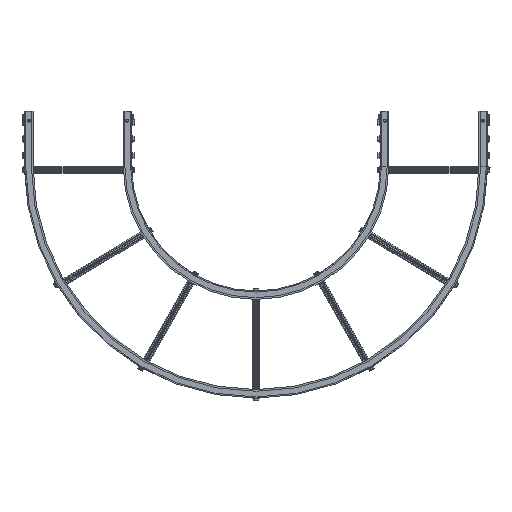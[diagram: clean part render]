
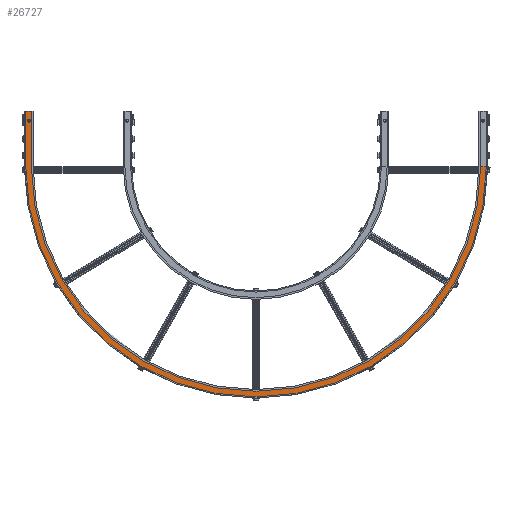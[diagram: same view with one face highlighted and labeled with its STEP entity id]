
A CAD part, front view. The second image highlights one B-rep face of the part: STEP entity #26727.
In plain terms, the highlighted planar face has unit normal (0, -1, 0) as drawn and (0, 1, 0) by its records, which use the part's own axes.
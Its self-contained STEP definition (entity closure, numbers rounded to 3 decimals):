
#40 = CARTESIAN_POINT ( 'NONE',  ( 5., 20., 0. ) ) ;
#231 = DIRECTION ( 'NONE',  ( 0., 0., 1. ) ) ;
#438 = CARTESIAN_POINT ( 'NONE',  ( -4.25, 20., 129.1 ) ) ;
#1106 = ORIENTED_EDGE ( 'NONE', *, *, #15270, .T. ) ;
#2254 = VERTEX_POINT ( 'NONE', #22848 ) ;
#2352 = VERTEX_POINT ( 'NONE', #40 ) ;
#2392 = DIRECTION ( 'NONE',  ( 0., 1., 0. ) ) ;
#2682 = AXIS2_PLACEMENT_3D ( 'NONE', #26531, #7729, #22410 ) ;
#3555 = VERTEX_POINT ( 'NONE', #24023 ) ;
#3706 = DIRECTION ( 'NONE',  ( 0., 1., 0. ) ) ;
#4227 = FACE_OUTER_BOUND ( 'NONE', #25541, .T. ) ;
#4316 = VERTEX_POINT ( 'NONE', #11544 ) ;
#4519 = VECTOR ( 'NONE', #7694, 1000. ) ;
#4530 = ORIENTED_EDGE ( 'NONE', *, *, #16899, .F. ) ;
#5559 = CIRCLE ( 'NONE', #11232, 4.1 ) ;
#5608 = AXIS2_PLACEMENT_3D ( 'NONE', #16244, #3706, #18334 ) ;
#6456 = DIRECTION ( 'NONE',  ( 1., 0., 0. ) ) ;
#6811 = CARTESIAN_POINT ( 'NONE',  ( -1230.5, 20., 0. ) ) ;
#6826 = ORIENTED_EDGE ( 'NONE', *, *, #17953, .T. ) ;
#7412 = CARTESIAN_POINT ( 'NONE',  ( -1246., 20., 0. ) ) ;
#7694 = DIRECTION ( 'NONE',  ( 0., 0., 1. ) ) ;
#7729 = DIRECTION ( 'NONE',  ( 0., -1., 0. ) ) ;
#7739 = VERTEX_POINT ( 'NONE', #438 ) ;
#8102 = VECTOR ( 'NONE', #8616, 1000. ) ;
#8616 = DIRECTION ( 'NONE',  ( -1., 0., 0. ) ) ;
#9166 = DIRECTION ( 'NONE',  ( 0., 1., 0. ) ) ;
#10462 = VECTOR ( 'NONE', #26114, 1000. ) ;
#10519 = CIRCLE ( 'NONE', #20685, 625.5 ) ;
#10567 = VERTEX_POINT ( 'NONE', #6811 ) ;
#10607 = CARTESIAN_POINT ( 'NONE',  ( -10.5, 20., 150. ) ) ;
#11116 = LINE ( 'NONE', #11433, #10462 ) ;
#11232 = AXIS2_PLACEMENT_3D ( 'NONE', #25337, #12769, #231 ) ;
#11433 = CARTESIAN_POINT ( 'NONE',  ( -10.5, 20., 0. ) ) ;
#11544 = CARTESIAN_POINT ( 'NONE',  ( -10.5, 20., 0. ) ) ;
#11569 = VERTEX_POINT ( 'NONE', #7412 ) ;
#11641 = ORIENTED_EDGE ( 'NONE', *, *, #17392, .F. ) ;
#12769 = DIRECTION ( 'NONE',  ( 0., 1., 0. ) ) ;
#13008 = VECTOR ( 'NONE', #6456, 1000. ) ;
#13135 = ORIENTED_EDGE ( 'NONE', *, *, #14285, .F. ) ;
#13379 = EDGE_CURVE ( 'NONE', #2352, #11569, #10519, .T. ) ;
#13744 = CIRCLE ( 'NONE', #5608, 610. ) ;
#14128 = EDGE_CURVE ( 'NONE', #4316, #10567, #13744, .T. ) ;
#14285 = EDGE_CURVE ( 'NONE', #7739, #3555, #5559, .T. ) ;
#14915 = CARTESIAN_POINT ( 'NONE',  ( -4.25, 20., 125. ) ) ;
#15270 = EDGE_CURVE ( 'NONE', #4316, #15487, #11116, .T. ) ;
#15361 = ORIENTED_EDGE ( 'NONE', *, *, #16732, .F. ) ;
#15487 = VERTEX_POINT ( 'NONE', #10607 ) ;
#15627 = AXIS2_PLACEMENT_3D ( 'NONE', #14915, #2392, #17018 ) ;
#15636 = LINE ( 'NONE', #24840, #4519 ) ;
#16244 = CARTESIAN_POINT ( 'NONE',  ( -620.5, 20., 0. ) ) ;
#16732 = EDGE_CURVE ( 'NONE', #2352, #2254, #15636, .T. ) ;
#16899 = EDGE_CURVE ( 'NONE', #2254, #15487, #26164, .T. ) ;
#17018 = DIRECTION ( 'NONE',  ( 0., 0., 1. ) ) ;
#17392 = EDGE_CURVE ( 'NONE', #3555, #7739, #25169, .T. ) ;
#17953 = EDGE_CURVE ( 'NONE', #11569, #10567, #18550, .T. ) ;
#18334 = DIRECTION ( 'NONE',  ( 1., 0., 0. ) ) ;
#18550 = LINE ( 'NONE', #21122, #13008 ) ;
#18989 = ORIENTED_EDGE ( 'NONE', *, *, #14128, .F. ) ;
#20266 = PLANE ( 'NONE',  #2682 ) ;
#20685 = AXIS2_PLACEMENT_3D ( 'NONE', #21719, #9166, #23829 ) ;
#21122 = CARTESIAN_POINT ( 'NONE',  ( -1246., 20., 0. ) ) ;
#21169 = CARTESIAN_POINT ( 'NONE',  ( 5., 20., 150. ) ) ;
#21719 = CARTESIAN_POINT ( 'NONE',  ( -620.5, 20., 0. ) ) ;
#22410 = DIRECTION ( 'NONE',  ( 0., 0., -1. ) ) ;
#22848 = CARTESIAN_POINT ( 'NONE',  ( 5., 20., 150. ) ) ;
#23829 = DIRECTION ( 'NONE',  ( 1., 0., 0. ) ) ;
#24023 = CARTESIAN_POINT ( 'NONE',  ( -4.25, 20., 120.9 ) ) ;
#24840 = CARTESIAN_POINT ( 'NONE',  ( 5., 20., 0. ) ) ;
#25169 = CIRCLE ( 'NONE', #15627, 4.1 ) ;
#25337 = CARTESIAN_POINT ( 'NONE',  ( -4.25, 20., 125. ) ) ;
#25541 = EDGE_LOOP ( 'NONE', ( #18989, #1106, #4530, #15361, #25639, #6826 ) ) ;
#25559 = EDGE_LOOP ( 'NONE', ( #13135, #11641 ) ) ;
#25639 = ORIENTED_EDGE ( 'NONE', *, *, #13379, .T. ) ;
#25879 = FACE_BOUND ( 'NONE', #25559, .T. ) ;
#26114 = DIRECTION ( 'NONE',  ( 0., 0., 1. ) ) ;
#26164 = LINE ( 'NONE', #21169, #8102 ) ;
#26531 = CARTESIAN_POINT ( 'NONE',  ( 5., 20., 0. ) ) ;
#26727 = ADVANCED_FACE ( 'NONE', ( #25879, #4227 ), #20266, .F. ) ;
